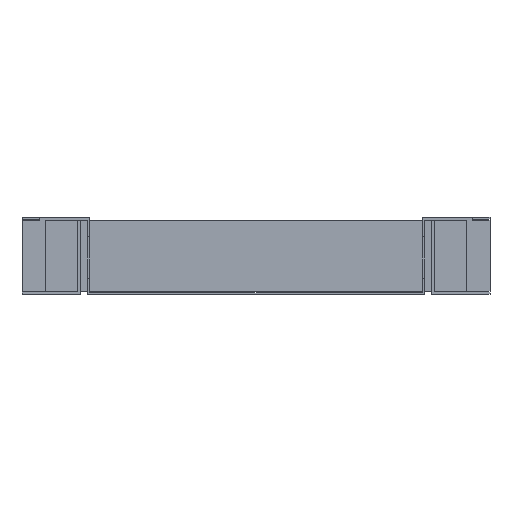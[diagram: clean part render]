
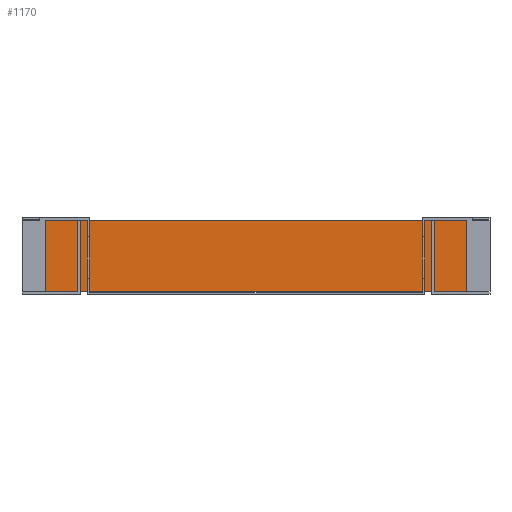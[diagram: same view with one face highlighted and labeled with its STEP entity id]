
A CAD part, front view. The second image highlights one B-rep face of the part: STEP entity #1170.
In plain terms, the highlighted planar face has unit normal (0, -1, 0).
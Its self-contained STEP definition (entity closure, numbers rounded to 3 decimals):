
#121=DIRECTION('',(0.,0.,1.));
#122=VECTOR('',#121,60.);
#123=CARTESIAN_POINT('',(177.,1780.,-30.));
#124=LINE('',#123,#122);
#449=DIRECTION('',(1.,0.,0.));
#450=VECTOR('',#449,354.);
#451=CARTESIAN_POINT('',(-177.,1780.,30.));
#452=LINE('',#451,#450);
#469=DIRECTION('',(1.,0.,0.));
#470=VECTOR('',#469,354.);
#471=CARTESIAN_POINT('',(-177.,1780.,-30.));
#472=LINE('',#471,#470);
#501=DIRECTION('',(0.,0.,1.));
#502=VECTOR('',#501,60.);
#503=CARTESIAN_POINT('',(-177.,1780.,-30.));
#504=LINE('',#503,#502);
#521=CARTESIAN_POINT('',(-177.,1780.,-30.));
#522=VERTEX_POINT('',#521);
#523=CARTESIAN_POINT('',(177.,1780.,-30.));
#524=VERTEX_POINT('',#523);
#533=CARTESIAN_POINT('',(-177.,1780.,30.));
#534=CARTESIAN_POINT('',(177.,1780.,30.));
#535=VERTEX_POINT('',#533);
#536=VERTEX_POINT('',#534);
#1159=CARTESIAN_POINT('',(-177.,1780.,-30.));
#1160=DIRECTION('',(0.,-1.,0.));
#1161=DIRECTION('',(1.,0.,0.));
#1162=AXIS2_PLACEMENT_3D('',#1159,#1160,#1161);
#1163=PLANE('',#1162);
#1164=ORIENTED_EDGE('',*,*,#1120,.F.);
#1165=ORIENTED_EDGE('',*,*,#1140,.T.);
#1166=ORIENTED_EDGE('',*,*,#1091,.T.);
#1167=ORIENTED_EDGE('',*,*,#675,.F.);
#1168=EDGE_LOOP('',(#1164,#1165,#1166,#1167));
#1169=FACE_OUTER_BOUND('',#1168,.F.);
#675=EDGE_CURVE('',#524,#536,#124,.T.);
#1091=EDGE_CURVE('',#535,#536,#452,.T.);
#1120=EDGE_CURVE('',#522,#524,#472,.T.);
#1140=EDGE_CURVE('',#522,#535,#504,.T.);
#1170=ADVANCED_FACE('',(#1169),#1163,.T.);
